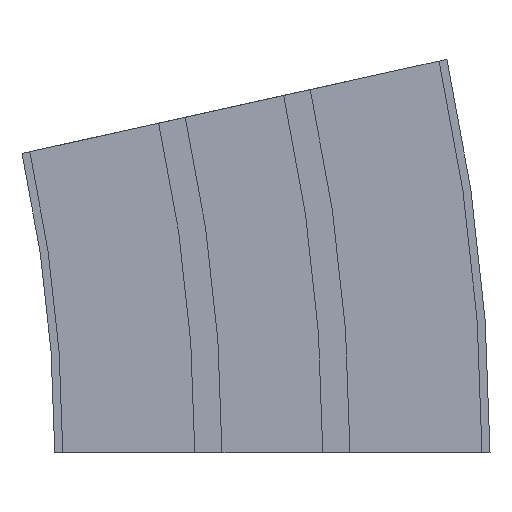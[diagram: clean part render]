
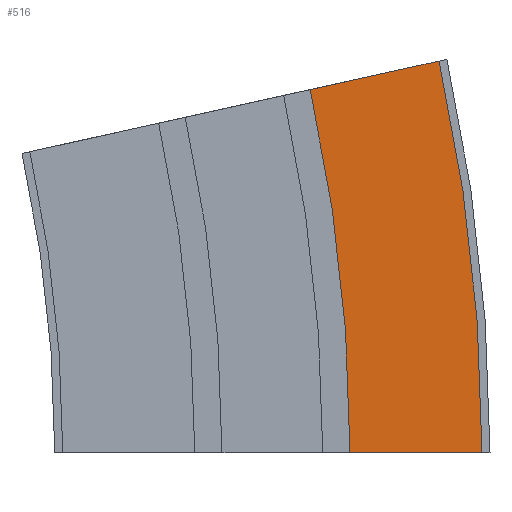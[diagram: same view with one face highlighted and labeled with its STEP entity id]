
A CAD part, left-side view. The second image highlights one B-rep face of the part: STEP entity #516.
In plain terms, the highlighted planar face has unit normal (-1, 0, 0).
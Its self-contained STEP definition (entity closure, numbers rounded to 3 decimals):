
#27 = CARTESIAN_POINT ( 'NONE',  ( -249.5, -65.5, 0. ) ) ;
#32 = CARTESIAN_POINT ( 'NONE',  ( -249.5, -52.095, 122.397 ) ) ;
#34 = CARTESIAN_POINT ( 'NONE',  ( -249.5, -11.823, 113.468 ) ) ;
#75 = CARTESIAN_POINT ( 'NONE',  ( -249.5, -24.25, 0. ) ) ;
#79 = DIRECTION ( 'NONE',  ( 0., 0., -1. ) ) ;
#82 = CARTESIAN_POINT ( 'NONE',  ( -249.5, -11.823, 113.468 ) ) ;
#102 = DIRECTION ( 'NONE',  ( 1., 0., 0. ) ) ;
#104 = PLANE ( 'NONE',  #551 ) ;
#131 = VERTEX_POINT ( 'NONE', #75 ) ;
#169 = EDGE_LOOP ( 'NONE', ( #199, #200, #201, #202 ) ) ;
#199 = ORIENTED_EDGE ( 'NONE', *, *, #615, .F. ) ;
#200 = ORIENTED_EDGE ( 'NONE', *, *, #614, .F. ) ;
#201 = ORIENTED_EDGE ( 'NONE', *, *, #618, .T. ) ;
#202 = ORIENTED_EDGE ( 'NONE', *, *, #613, .T. ) ;
#349 = VERTEX_POINT ( 'NONE', #27 ) ;
#354 = VERTEX_POINT ( 'NONE', #34 ) ;
#356 = VERTEX_POINT ( 'NONE', #32 ) ;
#391 = CARTESIAN_POINT ( 'NONE',  ( -249.5, -24.25, 0. ) ) ;
#422 = DIRECTION ( 'NONE',  ( 0., 0., -1. ) ) ;
#424 = CARTESIAN_POINT ( 'NONE',  ( -249.5, -11.823, 113.468 ) ) ;
#428 = DIRECTION ( 'NONE',  ( 0., -0.976, 0.216 ) ) ;
#439 = DIRECTION ( 'NONE',  ( 1., 0., 0. ) ) ;
#440 = CARTESIAN_POINT ( 'NONE',  ( -249.5, 500., 0. ) ) ;
#443 = CARTESIAN_POINT ( 'NONE',  ( -249.5, 500., 0. ) ) ;
#450 = DIRECTION ( 'NONE',  ( 0., -1., 0. ) ) ;
#468 = DIRECTION ( 'NONE',  ( 0., 0., -1. ) ) ;
#469 = DIRECTION ( 'NONE',  ( 1., 0., 0. ) ) ;
#516 = ADVANCED_FACE ( 'NONE', ( #703 ), #104, .F. ) ;
#551 = AXIS2_PLACEMENT_3D ( 'NONE', #82, #102, #79 ) ;
#584 = AXIS2_PLACEMENT_3D ( 'NONE', #440, #439, #422 ) ;
#585 = AXIS2_PLACEMENT_3D ( 'NONE', #443, #469, #468 ) ;
#613 = EDGE_CURVE ( 'NONE', #131, #349, #766, .T. ) ;
#614 = EDGE_CURVE ( 'NONE', #354, #356, #762, .T. ) ;
#615 = EDGE_CURVE ( 'NONE', #356, #349, #769, .T. ) ;
#618 = EDGE_CURVE ( 'NONE', #354, #131, #774, .T. ) ;
#703 = FACE_OUTER_BOUND ( 'NONE', #169, .T. ) ;
#762 = LINE ( 'NONE', #424, #770 ) ;
#766 = LINE ( 'NONE', #391, #768 ) ;
#768 = VECTOR ( 'NONE', #450, 1000. ) ;
#769 = CIRCLE ( 'NONE', #584, 565.5 ) ;
#770 = VECTOR ( 'NONE', #428, 1000. ) ;
#774 = CIRCLE ( 'NONE', #585, 524.25 ) ;
